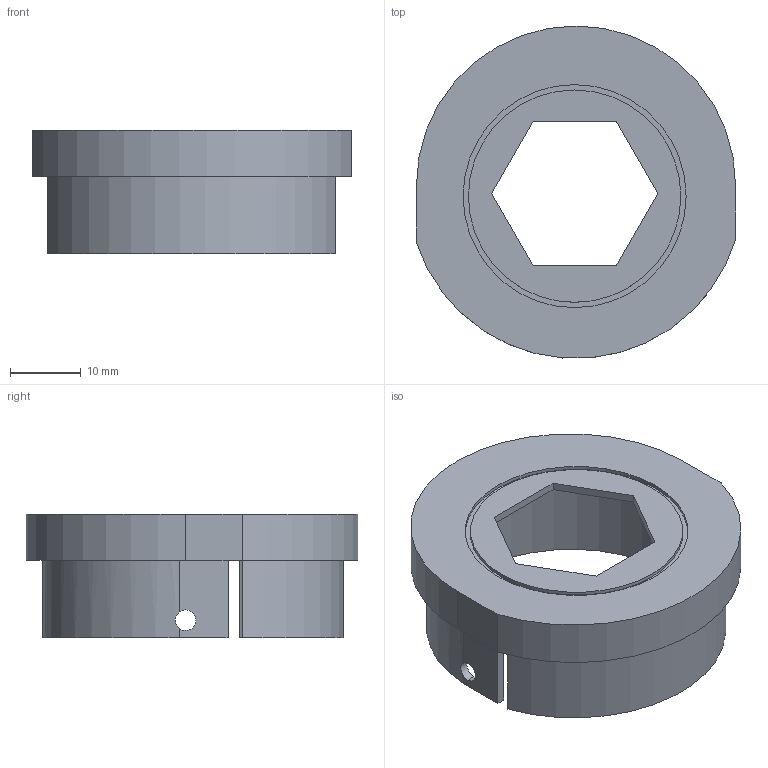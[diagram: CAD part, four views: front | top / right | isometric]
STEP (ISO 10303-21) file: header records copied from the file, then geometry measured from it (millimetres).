
FILE_DESCRIPTION(('Open CASCADE Model'),'2;1');
FILE_NAME('adhesive-casting-mold.step','2026-11-14T14:29:31',('Author'), ('Open CASCADE'),'Open CASCADE STEP processor 8.0','Open CASCADE 8.0', 'Unknown');
FILE_SCHEMA(('AP242_MANAGED_MODEL_BASED_3D_ENGINEERING_MIM_LF {1 0 10303 442 1 1 4 }' ));
Length unit declared in the file: millimetre
Products named in the file (1): Adhesive Casting Mold
Bounding box: 45.08 x 46.88 x 17.5 mm (x, y, z)
Volume: 4725.9 mm3; surface area: 8924.4 mm2
Topology: 1 solids, 1 shells, 57 faces, 153 edges, 99 vertices
Faces by surface type: plane 36, cylinder 21
Entity records: 4296 total; most frequent: CARTESIAN_POINT 1236, DIRECTION 577, LINE 359, VECTOR 359, ORIENTED_EDGE 306, PCURVE 306, DEFINITIONAL_REPRESENTATION 306, EDGE_CURVE 153
